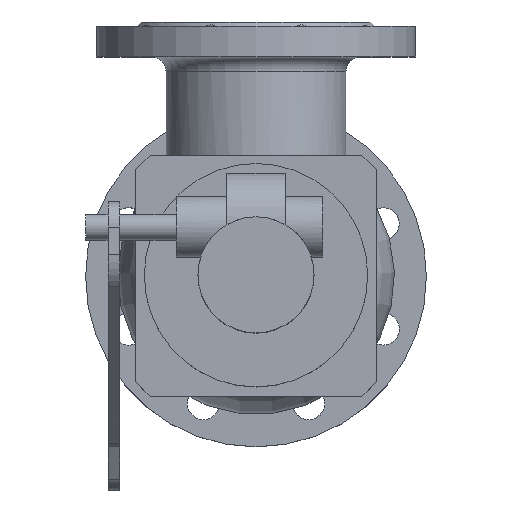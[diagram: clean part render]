
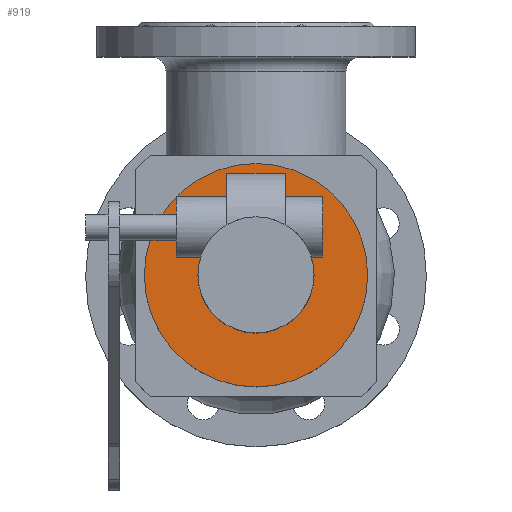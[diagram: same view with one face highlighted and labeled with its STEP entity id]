
A CAD part, top view. The second image highlights one B-rep face of the part: STEP entity #919.
In plain terms, the highlighted planar face has unit normal (0, 0, 1).
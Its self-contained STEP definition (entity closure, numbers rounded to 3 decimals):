
#919=ADVANCED_FACE('',(#2075,#2077),#2079,.T.);
#2075=FACE_BOUND('',#2076,.T.);
#2076=EDGE_LOOP('',(#2919));
#2077=FACE_BOUND('',#2078,.T.);
#2078=EDGE_LOOP('',(#2920));
#2079=PLANE('',#2080);
#2080=AXIS2_PLACEMENT_3D('',#2081,#2082,#2083);
#2081=CARTESIAN_POINT('',(0.,0.,502.5));
#2082=DIRECTION('',(0.,0.,1.));
#2083=DIRECTION('',(0.,1.,0.));
#2919=ORIENTED_EDGE('',*,*,#3413,.F.);
#2920=ORIENTED_EDGE('',*,*,#3414,.T.);
#3413=EDGE_CURVE('',#3939,#3939,#3940,.T.);
#3414=EDGE_CURVE('',#3941,#3941,#3942,.T.);
#3939=VERTEX_POINT('',#6637);
#3940=CIRCLE('',#6638,77.);
#3941=VERTEX_POINT('',#6642);
#3942=CIRCLE('',#6643,40.);
#6637=CARTESIAN_POINT('',(0.,77.,502.5));
#6638=AXIS2_PLACEMENT_3D('',#6639,#6640,#6641);
#6639=CARTESIAN_POINT('',(0.,0.,502.5));
#6640=DIRECTION('',(0.,0.,-1.));
#6641=DIRECTION('',(0.,1.,0.));
#6642=CARTESIAN_POINT('',(0.,40.,502.5));
#6643=AXIS2_PLACEMENT_3D('',#6644,#6645,#6646);
#6644=CARTESIAN_POINT('',(0.,0.,502.5));
#6645=DIRECTION('',(0.,0.,-1.));
#6646=DIRECTION('',(0.,1.,0.));
